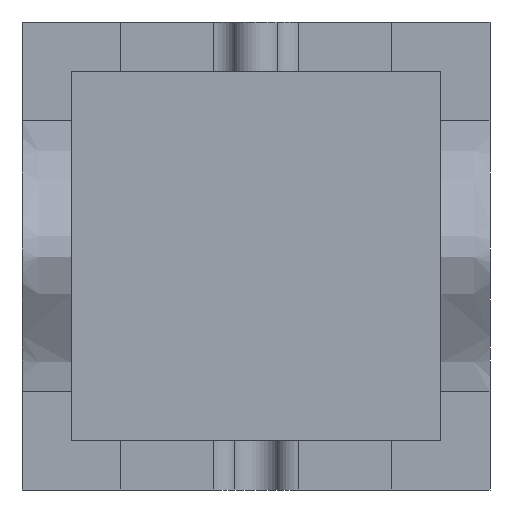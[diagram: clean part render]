
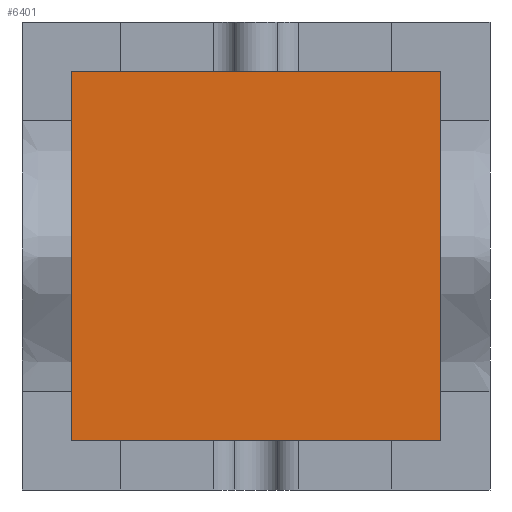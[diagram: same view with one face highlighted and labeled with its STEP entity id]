
A CAD part, front view. The second image highlights one B-rep face of the part: STEP entity #6401.
In plain terms, the highlighted planar face has unit normal (0, -1, 0).
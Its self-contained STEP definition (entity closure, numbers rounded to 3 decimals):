
#6275=CARTESIAN_POINT('Vertex',(-20.,-30.,-20.)) ;
#6280=CARTESIAN_POINT('Line Origine',(-20.,-30.,55.5)) ;
#6284=CARTESIAN_POINT('Vertex',(-20.,-30.,131.)) ;
#6311=CARTESIAN_POINT('Line Origine',(55.5,-30.,131.)) ;
#6315=CARTESIAN_POINT('Vertex',(131.,-30.,131.)) ;
#6342=CARTESIAN_POINT('Line Origine',(131.,-30.,55.5)) ;
#6346=CARTESIAN_POINT('Vertex',(131.,-30.,-20.)) ;
#6373=CARTESIAN_POINT('Line Origine',(55.5,-30.,-20.)) ;
#6390=CARTESIAN_POINT('Axis2P3D Location',(0.,-30.,0.)) ;
#6281=DIRECTION('Vector Direction',(0.,0.,-1.)) ;
#6312=DIRECTION('Vector Direction',(1.,0.,0.)) ;
#6343=DIRECTION('Vector Direction',(0.,0.,1.)) ;
#6374=DIRECTION('Vector Direction',(-1.,0.,0.)) ;
#6391=DIRECTION('Axis2P3D Direction',(0.,1.,0.)) ;
#6392=DIRECTION('Axis2P3D XDirection',(-1.,0.,0.)) ;
#6393=AXIS2_PLACEMENT_3D('Plane Axis2P3D',#6390,#6391,#6392) ;
#6396=ORIENTED_EDGE('',*,*,#6377,.F.) ;
#6397=ORIENTED_EDGE('',*,*,#6348,.F.) ;
#6398=ORIENTED_EDGE('',*,*,#6317,.F.) ;
#6399=ORIENTED_EDGE('',*,*,#6286,.F.) ;
#6282=VECTOR('Line Direction',#6281,1.) ;
#6313=VECTOR('Line Direction',#6312,1.) ;
#6344=VECTOR('Line Direction',#6343,1.) ;
#6375=VECTOR('Line Direction',#6374,1.) ;
#6401=ADVANCED_FACE('Cavity-molde',(#6400),#6394,.F.) ;
#6286=EDGE_CURVE('',#6276,#6285,#6283,.F.) ;
#6317=EDGE_CURVE('',#6285,#6316,#6314,.T.) ;
#6348=EDGE_CURVE('',#6316,#6347,#6345,.F.) ;
#6377=EDGE_CURVE('',#6347,#6276,#6376,.T.) ;
#6395=EDGE_LOOP('',(#6396,#6397,#6398,#6399)) ;
#6400=FACE_OUTER_BOUND('',#6395,.T.) ;
#6283=LINE('Line',#6280,#6282) ;
#6314=LINE('Line',#6311,#6313) ;
#6345=LINE('Line',#6342,#6344) ;
#6376=LINE('Line',#6373,#6375) ;
#6394=PLANE('',#6393) ;
#6276=VERTEX_POINT('',#6275) ;
#6285=VERTEX_POINT('',#6284) ;
#6316=VERTEX_POINT('',#6315) ;
#6347=VERTEX_POINT('',#6346) ;
